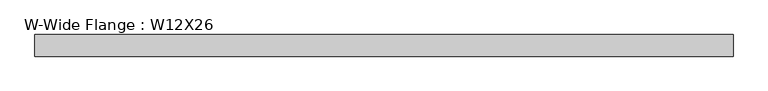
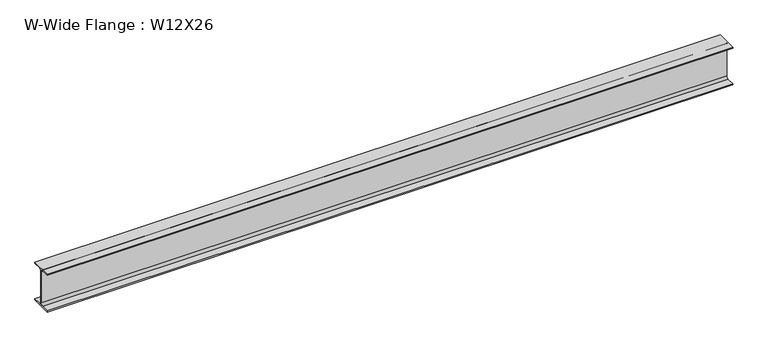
"""IFC4 building model written with IfcOpenShell, lengths in millimetres: beam geometry, W-Wide Flange : W12X26."""

from ifc_helpers import new_model, si_unit, point, frame, frame_2d, origin, place, context, project, spatial, polyline, circle_curve, trimmed, segment, composite_curve, outline, extrude, source, transform, mapped, element, save


def w_wide_flange_w12x26_147ca0f3(model_context):
    return source(origin(), model_context, "Body", "SweptSolid", [
        extrude(outline(composite_curve([segment(polyline([(82.423, -145.288), (82.423, -154.94), (-82.423, -154.94), (-82.423, -145.288), (-20.2565, -145.288)]), True, "CONTINUOUS"), segment(trimmed(circle_curve(frame_2d((-20.2565, -127.9525)), 17.3355), [point((-20.2565, -145.288))], [point((-2.921, -127.9525))], True, "CARTESIAN"), True, "CONTINUOUS"), segment(polyline([(-2.921, -127.9525), (-2.921, 127.9525)]), True, "CONTINUOUS"), segment(trimmed(circle_curve(frame_2d((-20.2565, 127.9525)), 17.3355), [point((-2.921, 127.9525))], [point((-20.2565, 145.288))], True, "CARTESIAN"), True, "CONTINUOUS"), segment(polyline([(-20.2565, 145.288), (-82.423, 145.288), (-82.423, 154.94), (82.423, 154.94), (82.423, 145.288), (20.2565, 145.288)]), True, "CONTINUOUS"), segment(trimmed(circle_curve(frame_2d((20.2565, 127.9525)), 17.3355), [point((20.2565, 145.288))], [point((2.921, 127.9525))], True, "CARTESIAN"), True, "CONTINUOUS"), segment(polyline([(2.921, 127.9525), (2.921, -127.9525)]), True, "CONTINUOUS"), segment(trimmed(circle_curve(frame_2d((20.2565, -127.9525)), 17.3355), [point((2.921, -127.9525))], [point((20.2565, -145.288))], True, "CARTESIAN"), True, "CONTINUOUS"), segment(polyline([(20.2565, -145.288), (82.423, -145.288)]), True, "CONTINUOUS")], self_intersect=False)), frame((-4032.377, 0.0, 0.0), z_axis=(1.0, 0.0, 0.0), x_axis=(0.0, 1.0, 0.0)), (0.0, 0.0, 1.0), 5321.554),
    ])


if __name__ == "__main__":
    model = new_model("IFC4")
    model_context = context("Model", 3, world=origin())
    ifc_project = project(units=[si_unit("LENGTHUNIT", "METRE", prefix="MILLI")], contexts=[model_context])
    site = spatial("IfcSite", under=ifc_project)
    building = spatial("IfcBuilding", under=site)
    placement = place(None, origin())
    w_wide_flange_w12x26_shape = w_wide_flange_w12x26_147ca0f3(model_context)
    element("IfcBeam", 1, ObjectType="W-Wide Flange : W12X26", at=placement, inside=building, context=model_context, shape_type="MappedRepresentation", body=[
        mapped(w_wide_flange_w12x26_shape, transform((0.0, 0.0, 0.0), x_axis=(1.0, 0.0, 0.0), y_axis=(0.0, 1.0, 0.0), z_axis=(0.0, 0.0, 1.0))),
    ])
    save(model, "model.ifc")
